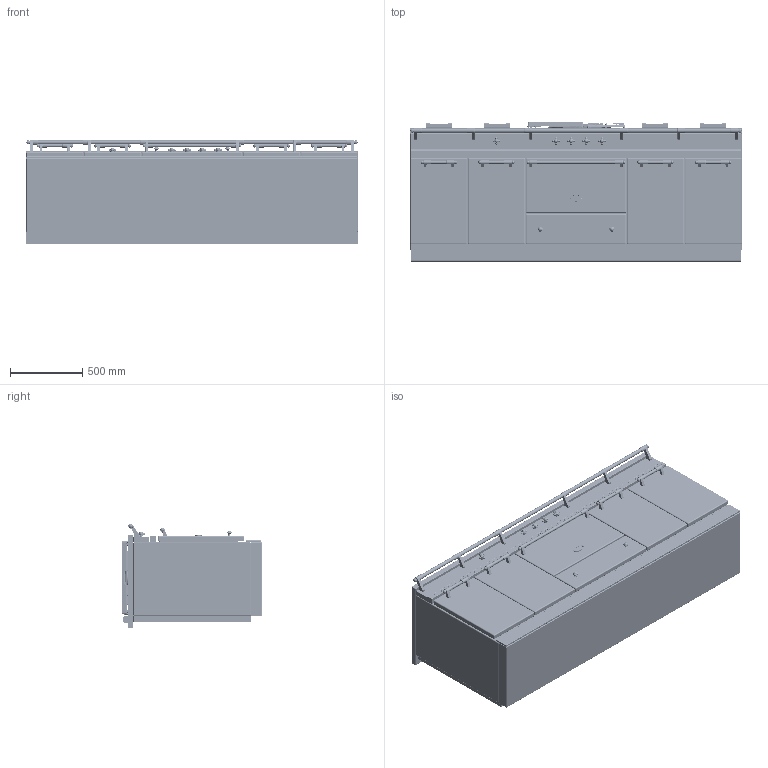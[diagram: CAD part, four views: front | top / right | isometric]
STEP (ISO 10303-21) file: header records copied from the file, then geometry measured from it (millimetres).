
FILE_DESCRIPTION((''),'2;1');
FILE_NAME('LCF2332_ASM','2021-12-02T17:00:57',('r.avril'),(''),'CREO PARAMETRIC BY PTC INC, 2017260','CREO PARAMETRIC BY PTC INC, 2017260','');
FILE_SCHEMA(('AP203_CONFIGURATION_CONTROLLED_3D_DESIGN_OF_MECHANICAL_PARTS_AND_ASSEMBLIES_MIM_LF { 1 0 10303 403 2 1 2 }'));
Products named in the file (29): BASE_EXPORT_FONTENAY_LG2331; 65650003; 65650004; 65650006; 65650007; 6531940; 6531941; 6531943; 65049009; 65650001; 6538399; 1931942; 65080022_AF0; 6531942_ASM; BASE_EXPORT_CITEAUX_LG2332_ASM; TABLE_2300_CLASSIQUE_3_FEUX; 5KW; 1_5KW; 3KW; 6537023; 65149005; 90000565_ASM; 65062008; 65062012; 90000549_ASM; CHEMINEE_2020_LG371_EXPORT_STEP; CHEMINEE_2020_LG182_EXPORT_STEP; TABLE_2300_TRADITION_ASM; LCF2332_ASM
Assembly tree (53 placements, depth 4):
  LCF2332_ASM
    BASE_EXPORT_CITEAUX_LG2332_ASM
      BASE_EXPORT_FONTENAY_LG2331
      65650003
      65650004
      65650006  x2
      65650007  x2
      6531940  x5
      6531941  x5
      6531943  x2
      65049009
      65650001
      6531942_ASM  x5
        6538399
        1931942
        65080022_AF0
    TABLE_2300_TRADITION_ASM
      TABLE_2300_CLASSIQUE_3_FEUX
      5KW
      1_5KW
      3KW
      90000565_ASM
        6537023
        65149005  x4
      90000549_ASM
        65062008
        65062012
        65149005  x4
      CHEMINEE_2020_LG371_EXPORT_STEP
      CHEMINEE_2020_LG182_EXPORT_STEP  x4
Bounding box: 2305 x 967 x 724 mm (x, y, z)
Volume: 846625275.2 mm3; surface area: 19633083.4 mm2
Topology: 66 solids, 84 shells, 8857 faces, 23090 edges, 14458 vertices
Faces by surface type: plane 4280, cylinder 2741, bspline 696, torus 423, sphere 300, cone 231, extrusion 162, revolution 24
Entity records: 250361 total; most frequent: CARTESIAN_POINT 64974, ORIENTED_EDGE 31416, DIRECTION 29490, EDGE_CURVE 15722, VECTOR 10238, LINE 10188, VERTEX_POINT 9836, PRESENTATION_STYLE_ASSIGNMENT 9599
